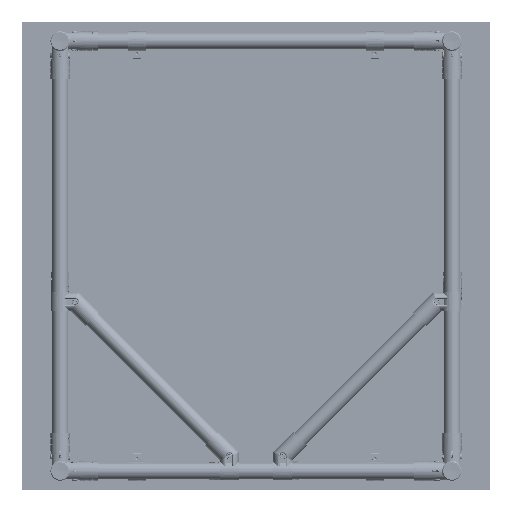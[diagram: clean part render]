
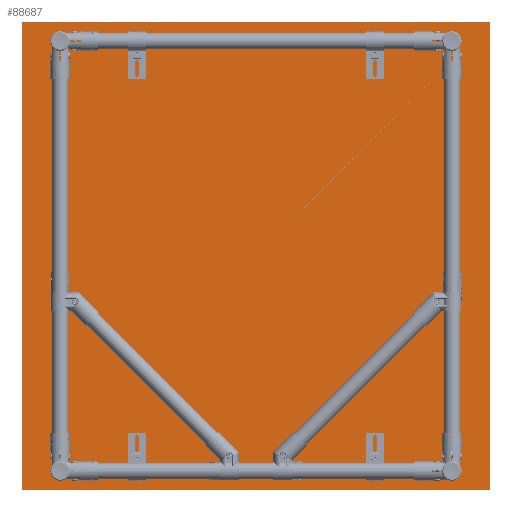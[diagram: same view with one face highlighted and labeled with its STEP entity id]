
A CAD part, front view. The second image highlights one B-rep face of the part: STEP entity #88687.
In plain terms, the highlighted planar face has unit normal (0, -1, 0) as drawn and (0, 0, -1) by its records, which use the part's own axes.
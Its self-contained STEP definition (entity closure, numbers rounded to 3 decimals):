
#206 = ORIENTED_EDGE ( 'NONE', *, *, #103488, .T. ) ;
#2617 = DIRECTION ( 'NONE',  ( -1., 0., 0. ) ) ;
#8928 = VERTEX_POINT ( 'NONE', #22773 ) ;
#9463 = DIRECTION ( 'NONE',  ( 1., 0., 0. ) ) ;
#11100 = CARTESIAN_POINT ( 'NONE',  ( 0., -399.2, 0. ) ) ;
#11490 = VERTEX_POINT ( 'NONE', #87642 ) ;
#12110 = DIRECTION ( 'NONE',  ( 0., 0., 1. ) ) ;
#14318 = LINE ( 'NONE', #72224, #48940 ) ;
#18269 = EDGE_LOOP ( 'NONE', ( #206, #87324, #35486, #75239 ) ) ;
#22773 = CARTESIAN_POINT ( 'NONE',  ( 399.2, -399.2, 0. ) ) ;
#24583 = CARTESIAN_POINT ( 'NONE',  ( -399.2, -399.2, 0. ) ) ;
#29480 = CARTESIAN_POINT ( 'NONE',  ( 399.2, 0., 0. ) ) ;
#32872 = EDGE_CURVE ( 'NONE', #61571, #47935, #14318, .T. ) ;
#33853 = CARTESIAN_POINT ( 'NONE',  ( 0., 399.2, 0. ) ) ;
#35486 = ORIENTED_EDGE ( 'NONE', *, *, #65428, .T. ) ;
#39650 = CARTESIAN_POINT ( 'NONE',  ( -399.2, 399.2, 0. ) ) ;
#42953 = LINE ( 'NONE', #11100, #68617 ) ;
#44335 = DIRECTION ( 'NONE',  ( 0., -1., 0. ) ) ;
#47174 = AXIS2_PLACEMENT_3D ( 'NONE', #100839, #12110, #98714 ) ;
#47935 = VERTEX_POINT ( 'NONE', #39650 ) ;
#48940 = VECTOR ( 'NONE', #104599, 1000. ) ;
#52695 = EDGE_CURVE ( 'NONE', #11490, #8928, #101752, .T. ) ;
#58891 = FACE_OUTER_BOUND ( 'NONE', #18269, .T. ) ;
#61571 = VERTEX_POINT ( 'NONE', #24583 ) ;
#65428 = EDGE_CURVE ( 'NONE', #8928, #61571, #42953, .T. ) ;
#68617 = VECTOR ( 'NONE', #2617, 1000. ) ;
#72224 = CARTESIAN_POINT ( 'NONE',  ( -399.2, 0., 0. ) ) ;
#75239 = ORIENTED_EDGE ( 'NONE', *, *, #32872, .T. ) ;
#84928 = PLANE ( 'NONE',  #47174 ) ;
#87324 = ORIENTED_EDGE ( 'NONE', *, *, #52695, .T. ) ;
#87502 = VECTOR ( 'NONE', #44335, 1000. ) ;
#87642 = CARTESIAN_POINT ( 'NONE',  ( 399.2, 399.2, 0. ) ) ;
#87873 = VECTOR ( 'NONE', #9463, 1000. ) ;
#88658 = LINE ( 'NONE', #33853, #87873 ) ;
#88687 = ADVANCED_FACE ( 'NONE', ( #58891 ), #84928, .F. ) ;
#98714 = DIRECTION ( 'NONE',  ( 1., 0., 0. ) ) ;
#100839 = CARTESIAN_POINT ( 'NONE',  ( 0., 0., 0. ) ) ;
#101752 = LINE ( 'NONE', #29480, #87502 ) ;
#103488 = EDGE_CURVE ( 'NONE', #47935, #11490, #88658, .T. ) ;
#104599 = DIRECTION ( 'NONE',  ( 0., 1., 0. ) ) ;
